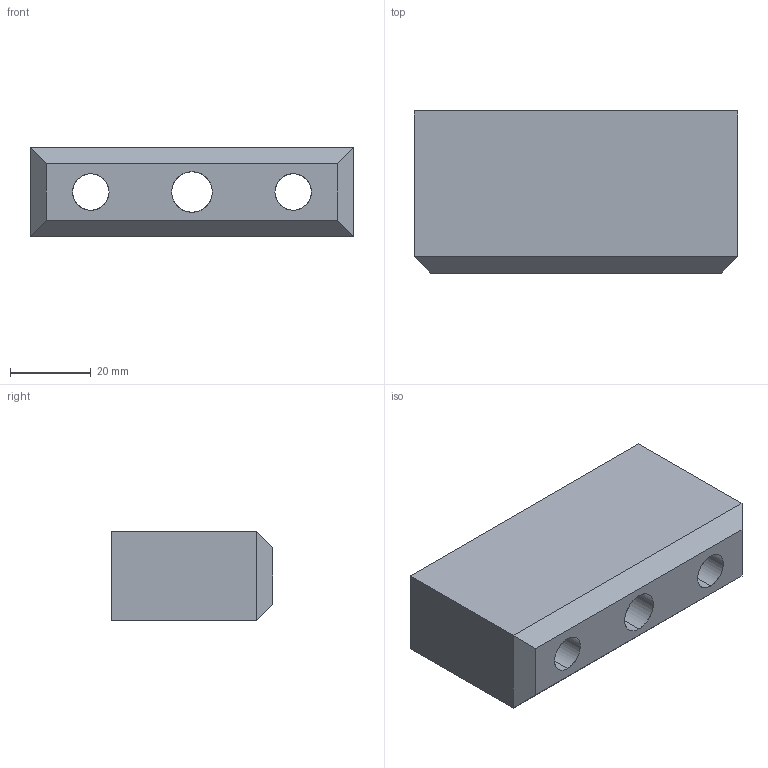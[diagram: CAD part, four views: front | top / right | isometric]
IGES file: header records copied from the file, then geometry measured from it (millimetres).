
Start section: START RECORD GO HERE.
Global section: file name: 761-040080.igs; native system: DASSAULT SYSTEMES CATIA V5 R20 - www.3ds.com; preprocessor: CATIA Version 5 Release 20 ; author: Utente; organization: NB04-ASUS; date: 20200411.174042; units: millimetre
Bounding box: 80 x 40 x 22 mm (x, y, z)
Surface area: 15162.2 mm2 (no closed solid volume)
Topology: 0 solids, 0 shells, 25 faces, 112 edges, 112 vertices
Faces by surface type: extrusion 13, revolution 12
